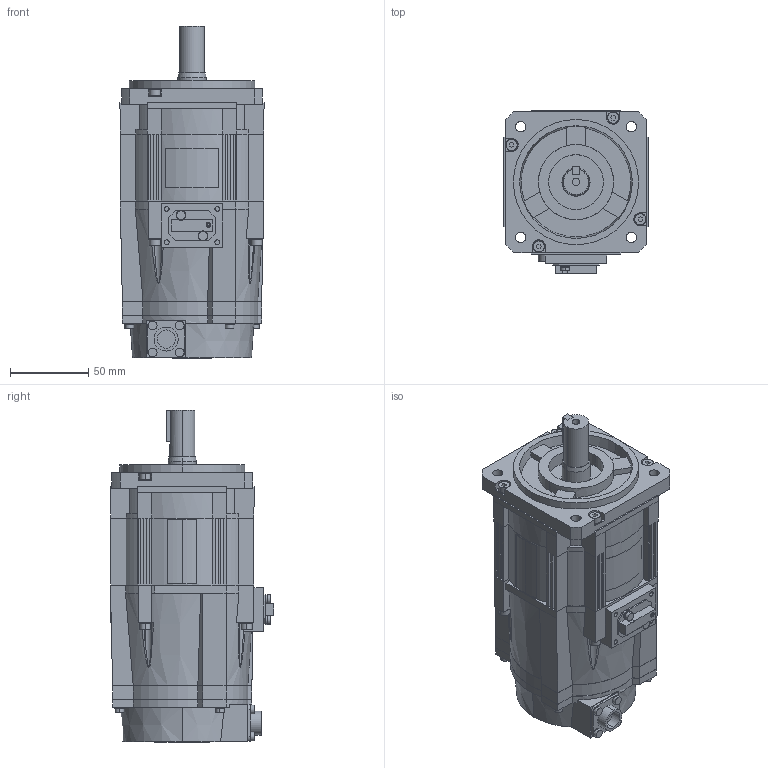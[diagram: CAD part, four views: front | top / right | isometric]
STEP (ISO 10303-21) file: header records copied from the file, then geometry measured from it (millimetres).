
FILE_DESCRIPTION (( 'STEP AP203' ), '1' );
FILE_NAME ('sgm7g_05__a6c.STEP', '2014-05-07T05:06:57', ( '匠エンジニアリング山之内' ), ( 'TAKUMI-Engniaring' ), 'SwSTEP 2.0', 'SolidWorks 2006303', '' );
FILE_SCHEMA (( 'CONFIG_CONTROL_DESIGN' ));
Length unit declared in the file: millimetre
Products named in the file (3): sgm7g_05__a6c_base; sgm7g_05__a6c; sgm7g_05__a6c_key
Assembly tree (2 placements, depth 2):
  sgm7g_05__a6c
    sgm7g_05__a6c_key
    sgm7g_05__a6c_base
Bounding box: 92 x 104.5 x 212.1 mm (x, y, z)
Volume: 1152313.1 mm3; surface area: 98016.1 mm2
Topology: 2 solids, 2 shells, 643 faces, 1607 edges, 1039 vertices
Faces by surface type: plane 443, cylinder 175, cone 21, bspline 4
Entity records: 20456 total; most frequent: CARTESIAN_POINT 4510, DIRECTION 3262, ORIENTED_EDGE 3214, EDGE_CURVE 1607, LINE 1126, VECTOR 1126, AXIS2_PLACEMENT_3D 1068, VERTEX_POINT 1039
